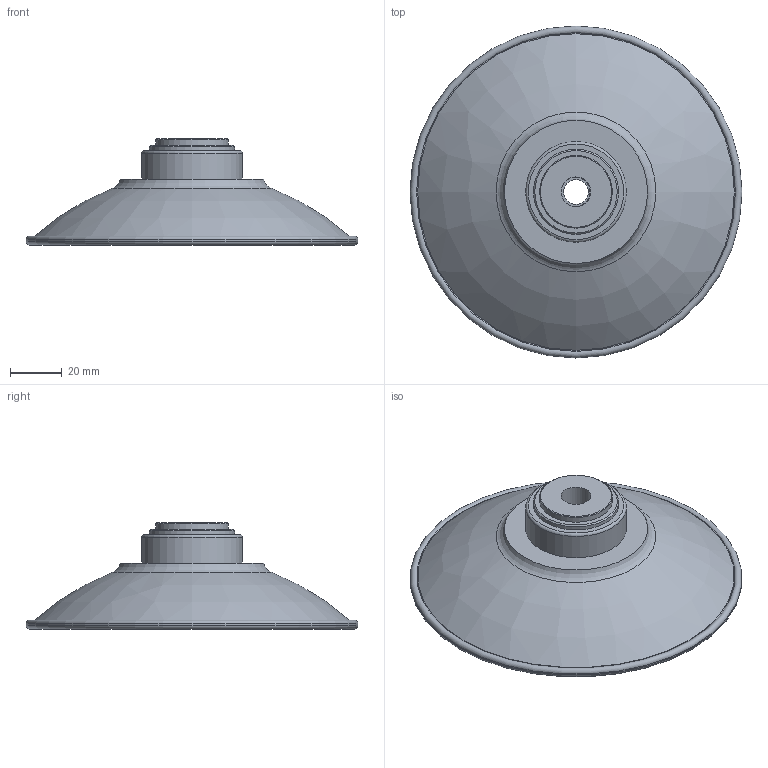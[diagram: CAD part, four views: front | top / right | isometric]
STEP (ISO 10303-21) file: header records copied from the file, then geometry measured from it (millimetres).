
FILE_DESCRIPTION( ( 'Unknown' ), '1' );
FILE_NAME( 'D:/弥龋覆(冠固急)/Smart Cup/寇何侩-唱荤魂TYPE/FCF125-14F.stp', 'Unknown', ( 'Unknown' ), ( 'Unknown' ), 'PSStep 10.0', 'Unknown', ' ' );
FILE_SCHEMA( ( 'AUTOMOTIVE_DESIGN { 1 0 10303 214 1 1 1 1 }' ) );
Length unit declared in the file: millimetre
Products named in the file (3): Assem1; FCF125; VDF-FCF-14F
Bounding box: 128 x 128 x 41 mm (x, y, z)
Volume: 129322.1 mm3; surface area: 81946.6 mm2
Topology: 4 solids, 4 shells, 100 faces, 168 edges, 100 vertices
Faces by surface type: cylinder 36, plane 32, cone 14, torus 12, bspline 6
Full cylindrical faces by diameter (mm): 9.5 x2, 11.445 x2, 16.8 x8, 18 x4, 28 x2, 30.8 x4, 32.8 x6, 38.8 x2, 78.5 x2, 82.1 x2, 128 x2
Entity records: 1533 total; most frequent: CARTESIAN_POINT 234, DIRECTION 200, AXIS2_PLACEMENT_3D 100, EDGE_LOOP 100, ORIENTED_EDGE 100, FACE_OUTER_BOUND 77, STYLED_ITEM 50, PRESENTATION_STYLE_ASSIGNMENT 50
